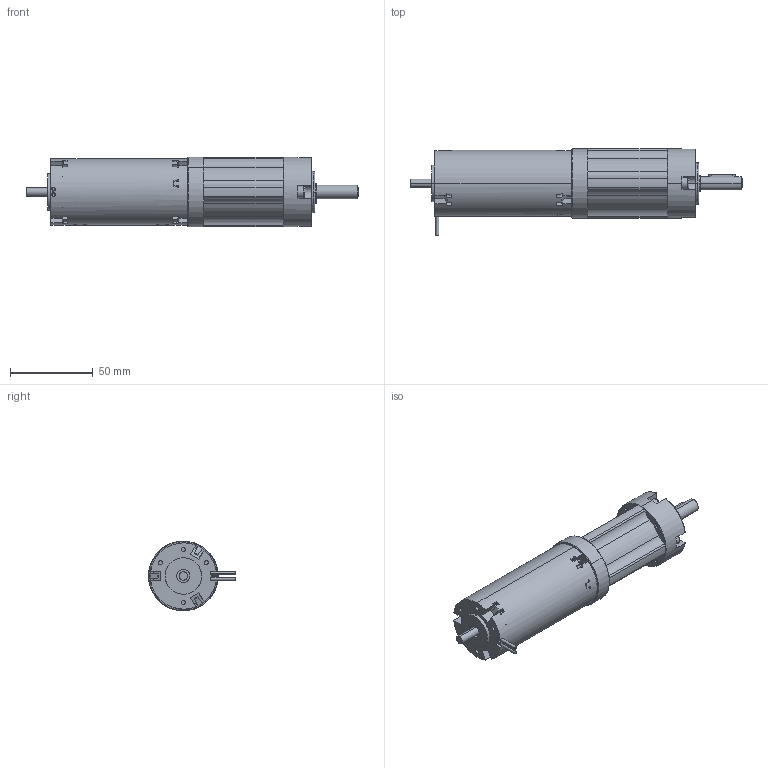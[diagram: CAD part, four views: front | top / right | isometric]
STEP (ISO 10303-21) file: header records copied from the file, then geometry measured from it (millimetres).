
FILE_DESCRIPTION (( 'STEP AP214' ), '1' );
FILE_NAME ('1.13.049_+_PK42-3etages.STEP', '2014-09-22T15:22:35', ( '' ), ( '' ), 'SwSTEP 2.0', 'SolidWorks 2013', '' );
FILE_SCHEMA (( 'AUTOMOTIVE_DESIGN' ));
Length unit declared in the file: millimetre
Products named in the file (17): bmz_1228382_1_3etages; 8006286_MOTORRITZEL_Z17_3; 8001288_ANLAUFSCHEIBE_1ST_14; MOTORFLANSCH_1226212_1; D912_M4X35_1; 8001289_ZAHNKRANZ_1ST_1_3etages; 3X3X16_D6885A_16; D471_8X0_8_16; 8002388_ABTRIEB_LK2_KPL_1; 8001305_LAGERBOLZEN_16; VBZ_K7841_ABTRIEB_AF0_16; DIN998_PS_8X14X1_16; 1203251_1; 8001301_LAGERFLANSCH__1; 1.13.049.401_3; 1.13.049_+_PK42-3etages
Assembly tree (23 placements, depth 4):
  1.13.049_+_PK42-3etages
    1.13.049.401_3
      1.13.049.401_3
    bmz_1228382_1_3etages
      8001301_LAGERFLANSCH__1
      1203251_1  x2
      DIN998_PS_8X14X1_16  x2
      8002388_ABTRIEB_LK2_KPL_1
        VBZ_K7841_ABTRIEB_AF0_16
        8001305_LAGERBOLZEN_16  x3
      D471_8X0_8_16
      3X3X16_D6885A_16
      8001289_ZAHNKRANZ_1ST_1_3etages
      D912_M4X35_1  x4
      MOTORFLANSCH_1226212_1
      8001288_ANLAUFSCHEIBE_1ST_14
      8006286_MOTORRITZEL_Z17_3
Bounding box: 200.3 x 52.44 x 42 mm (x, y, z)
Volume: 38510.1 mm3; surface area: 59412.5 mm2
Topology: 12 solids, 33 shells, 1642 faces, 4513 edges, 2922 vertices
Faces by surface type: cylinder 752, plane 591, cone 228, bspline 71
Entity records: 59385 total; most frequent: CARTESIAN_POINT 14789, ORIENTED_EDGE 8479, DIRECTION 8242, EDGE_CURVE 4262, AXIS2_PLACEMENT_3D 3049, VERTEX_POINT 2774, LINE 2144, VECTOR 2144
